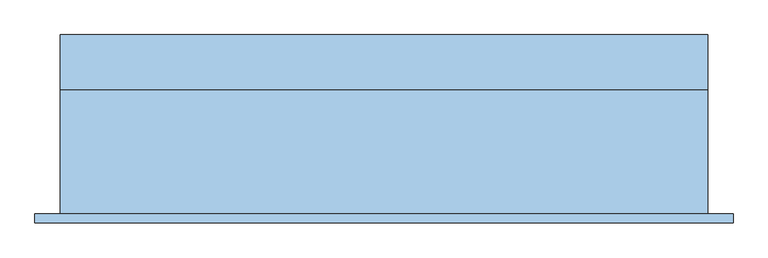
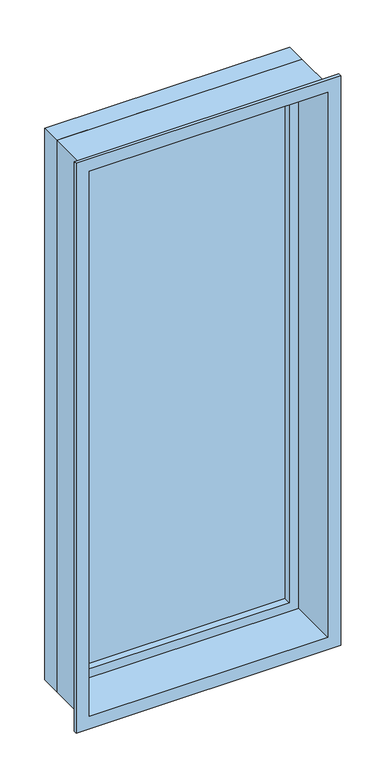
"""IFC4 building model written with IfcOpenShell, lengths in millimetres: window geometry, Vindu FK : 11X26 FK V2."""

from ifc_helpers import new_model, si_unit, frame, origin, place, context, project, spatial, polyline, outline, extrude, faceted_brep, source, transform, mapped, element, save


def window_7219a36e(model_context):
    return source(origin(), model_context, "Body", "SolidModel", [
        extrude(outline(polyline([(-506.0, 94.0), (506.0, 94.0), (506.0, 70.0), (-506.0, 70.0), (-506.0, 94.0)])), frame((0.0, 0.0, 929.0), z_axis=(0.0, 0.0, 1.0), x_axis=(1.0, 0.0, 0.0)), (0.0, 0.0, 1.0), 2512.0),
        faceted_brep([(-545.0, 130.0, 890.0), (-545.0, 38.0, 890.0), (-545.0, 38.0, 3480.0), (-545.0, 130.0, 3480.0), (-506.0, 70.0, 929.0), (-506.0, 130.0, 929.0), (-506.0, 130.0, 3441.0), (-506.0, 70.0, 3441.0), (-488.0, 38.0, 947.0), (-488.0, 70.0, 947.0), (-488.0, 70.0, 3423.0), (-488.0, 38.0, 3423.0), (545.0, 38.0, 3480.0), (545.0, 130.0, 3480.0), (506.0, 130.0, 3441.0), (506.0, 70.0, 3441.0), (488.0, 70.0, 3423.0), (488.0, 38.0, 3423.0), (545.0, 38.0, 890.0), (545.0, 130.0, 890.0), (506.0, 130.0, 929.0), (506.0, 70.0, 929.0), (488.0, 70.0, 947.0), (488.0, 38.0, 947.0)], [[[0, 1, 2, 3]], [[4, 5, 6, 7]], [[8, 9, 10, 11]], [[3, 2, 12, 13]], [[7, 6, 14, 15]], [[11, 10, 16, 17]], [[13, 12, 18, 19]], [[15, 14, 20, 21]], [[17, 16, 22, 23]], [[19, 18, 1, 0]], [[3, 13, 19, 0], [5, 20, 14, 6]], [[21, 20, 5, 4]], [[7, 15, 21, 4], [9, 22, 16, 10]], [[23, 22, 9, 8]], [[1, 18, 12, 2], [11, 17, 23, 8]]]),
        faceted_brep([(-545.0, -172.0, 890.0), (-545.0, 38.0, 890.0), (545.0, 38.0, 890.0), (545.0, -172.0, 890.0), (545.0, 38.0, 3480.0), (545.0, -172.0, 3480.0), (-545.0, 38.0, 3480.0), (530.0, 38.0, 3465.0), (-530.0, 38.0, 3465.0), (-530.0, 38.0, 905.0), (530.0, 38.0, 905.0), (588.0, -172.0, 847.0), (-588.0, -172.0, 847.0), (-588.0, -172.0, 3523.0), (588.0, -172.0, 3523.0), (-545.0, -172.0, 3480.0), (-588.0, -187.0, 847.0), (588.0, -187.0, 847.0), (588.0, -187.0, 3523.0), (-588.0, -187.0, 3523.0), (530.0, -187.0, 905.0), (-530.0, -187.0, 905.0), (-530.0, -187.0, 3465.0), (530.0, -187.0, 3465.0)], [[[0, 1, 2, 3]], [[3, 2, 4, 5]], [[2, 1, 6, 4], [7, 8, 9, 10]], [[11, 12, 13, 14], [5, 15, 0, 3]], [[16, 12, 11, 17]], [[17, 11, 14, 18]], [[18, 19, 16, 17], [20, 21, 22, 23]], [[9, 21, 20, 10]], [[10, 20, 23, 7]], [[15, 6, 1, 0]], [[19, 13, 12, 16]], [[8, 22, 21, 9]], [[5, 4, 6, 15]], [[18, 14, 13, 19]], [[7, 23, 22, 8]]]),
    ])


if __name__ == "__main__":
    model = new_model("IFC4")
    model_context = context("Model", 3, world=origin())
    ifc_project = project(units=[si_unit("LENGTHUNIT", "METRE", prefix="MILLI")], contexts=[model_context])
    site = spatial("IfcSite", under=ifc_project)
    building = spatial("IfcBuilding", under=site)
    placement = place(None, origin())
    window_shape = window_7219a36e(model_context)
    element("IfcWindow", 1, ObjectType="Vindu FK : 11X26 FK V2", at=placement, inside=building, context=model_context, shape_type="MappedRepresentation", body=[
        mapped(window_shape, transform((0.0, 0.0, 0.0), x_axis=(1.0, 0.0, 0.0), y_axis=(0.0, 1.0, 0.0), z_axis=(0.0, 0.0, 1.0))),
    ])
    save(model, "model.ifc")
